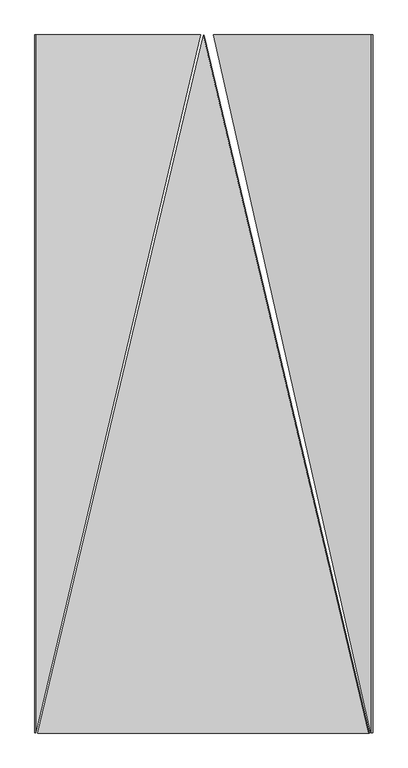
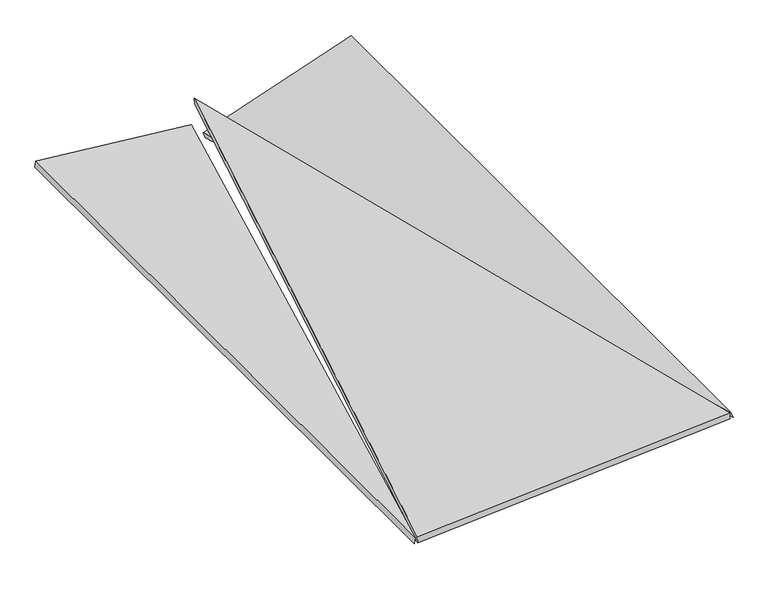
"""IFC4 building model written with IfcOpenShell, lengths in millimetres: proxy geometry, panel sufitowy 6 : panel sufitowy 6."""

from ifc_helpers import new_model, si_unit, frame, origin, place, context, project, spatial, polyline, outline, extrude, source, transform, mapped, element, save


def generic_models_2425ae3d(model_context):
    return source(origin(), model_context, "Body", "SweptSolid", [
        extrude(outline(polyline([(-900.9098917, 0.0), (1006.1909889, 962.7191946), (1235.4098448, 0.0), (-900.9098917, 0.0)])), frame((551.6617499, 1457.4151922, 1223.1899064), z_axis=(-0.069756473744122, 0.0, 0.9975640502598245), x_axis=(-0.23105631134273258, -0.9728062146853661, -0.016157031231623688)), (0.0, 0.0, 1.0), 20.0),
        extrude(outline(polyline([(-127.4999999, 0.0), (-127.4999999, -2079.0), (-622.5, 0.0), (-127.4999999, 0.0)])), frame((1383.8672714, 2335.0, 1314.4633949), z_axis=(-0.32556815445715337, 0.0, 0.945518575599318), x_axis=(0.945518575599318, 0.0, 0.32556815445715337)), (0.0, 0.0, 1.0), 20.0),
        extrude(outline(polyline([(-127.5, 0.0), (-622.5, 0.0), (-127.5, 2079.0), (-127.5, 0.0)])), frame((128.9724206, 2335.0, 1215.8267958), z_axis=(0.10452846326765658, 0.0, 0.9945218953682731), x_axis=(-0.9945218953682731, 0.0, 0.10452846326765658)), (0.0, 0.0, 1.0), 20.0),
    ])


if __name__ == "__main__":
    model = new_model("IFC4")
    model_context = context("Model", 3, world=origin())
    ifc_project = project(units=[si_unit("LENGTHUNIT", "METRE", prefix="MILLI")], contexts=[model_context])
    site = spatial("IfcSite", under=ifc_project)
    building = spatial("IfcBuilding", under=site)
    placement = place(None, origin())
    generic_models_shape = generic_models_2425ae3d(model_context)
    element("IfcBuildingElementProxy", 1, Name="panel sufitowy 6 : panel sufitowy 6", ObjectType="panel sufitowy 6 : panel sufitowy 6", at=placement, inside=building, context=model_context, shape_type="MappedRepresentation", body=[
        mapped(generic_models_shape, transform((0.0, 0.0, 0.0), x_axis=(1.0, 0.0, 0.0), y_axis=(0.0, 1.0, 0.0), z_axis=(0.0, 0.0, 1.0))),
    ])
    save(model, "model.ifc")
